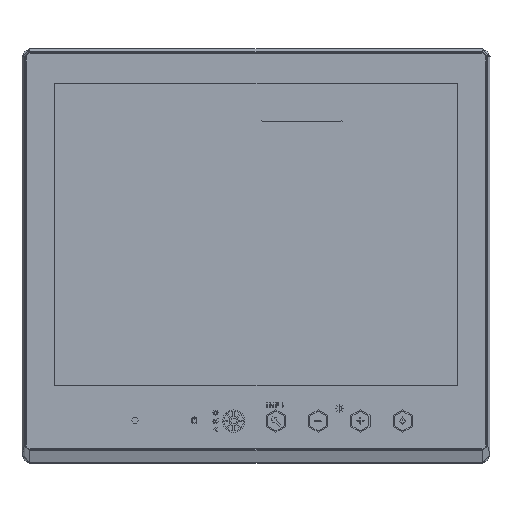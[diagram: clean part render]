
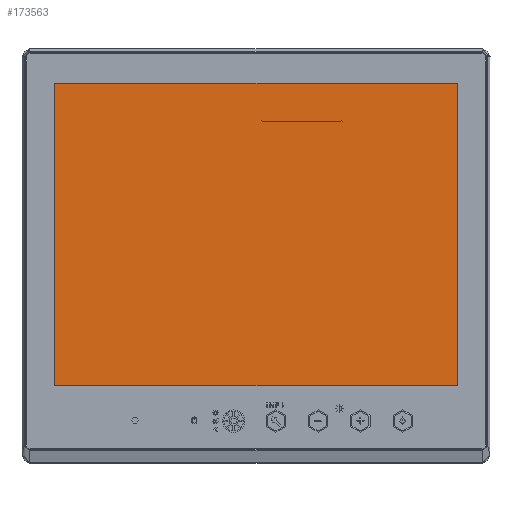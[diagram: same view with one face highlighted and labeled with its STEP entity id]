
A CAD part, top view. The second image highlights one B-rep face of the part: STEP entity #173563.
In plain terms, the highlighted planar face has unit normal (0, 0, 1).
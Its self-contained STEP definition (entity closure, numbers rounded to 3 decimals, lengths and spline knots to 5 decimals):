
#42309=DIRECTION('',(-1.,0.,0.));
#42310=VECTOR('',#42309,0.3265);
#42311=CARTESIAN_POINT('',(0.16325,-0.12675,-0.0018));
#42312=LINE('',#42311,#42310);
#42317=DIRECTION('',(0.,1.,0.));
#42318=VECTOR('',#42317,0.2577);
#42319=CARTESIAN_POINT('',(0.16325,-0.12675,-0.0018));
#42320=LINE('',#42319,#42318);
#42325=DIRECTION('',(0.,1.,0.));
#42326=VECTOR('',#42325,0.2577);
#42327=CARTESIAN_POINT('',(-0.16325,-0.12675,-0.0018));
#42328=LINE('',#42327,#42326);
#42341=DIRECTION('',(1.,0.,0.));
#42342=VECTOR('',#42341,0.3265);
#42343=CARTESIAN_POINT('',(-0.16325,0.13095,-0.0018));
#42344=LINE('',#42343,#42342);
#57655=CARTESIAN_POINT('',(0.16325,-0.12675,-0.0018));
#57656=CARTESIAN_POINT('',(0.16325,0.13095,-0.0018));
#57657=VERTEX_POINT('',#57655);
#57658=VERTEX_POINT('',#57656);
#57659=CARTESIAN_POINT('',(-0.16325,-0.12675,-0.0018));
#57660=CARTESIAN_POINT('',(-0.16325,0.13095,-0.0018));
#57661=VERTEX_POINT('',#57659);
#57662=VERTEX_POINT('',#57660);
#173550=CARTESIAN_POINT('',(0.,0.,-0.0018));
#173551=DIRECTION('',(0.,0.,1.));
#173552=DIRECTION('',(1.,0.,0.));
#173553=AXIS2_PLACEMENT_3D('',#173550,#173551,#173552);
#173554=PLANE('',#173553);
#173555=ORIENTED_EDGE('',*,*,#173531,.T.);
#173557=ORIENTED_EDGE('',*,*,#173556,.T.);
#173559=ORIENTED_EDGE('',*,*,#173558,.T.);
#173560=ORIENTED_EDGE('',*,*,#173542,.F.);
#173561=EDGE_LOOP('',(#173555,#173557,#173559,#173560));
#173562=FACE_OUTER_BOUND('',#173561,.F.);
#173531=EDGE_CURVE('',#57657,#57661,#42312,.T.);
#173542=EDGE_CURVE('',#57657,#57658,#42320,.T.);
#173556=EDGE_CURVE('',#57661,#57662,#42328,.T.);
#173558=EDGE_CURVE('',#57662,#57658,#42344,.T.);
#173563=ADVANCED_FACE('',(#173562),#173554,.T.);
